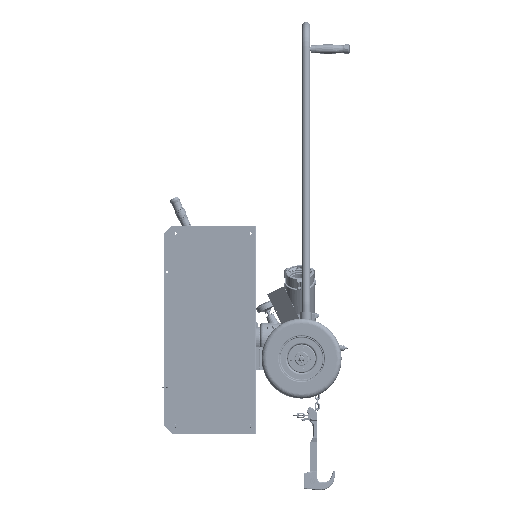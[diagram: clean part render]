
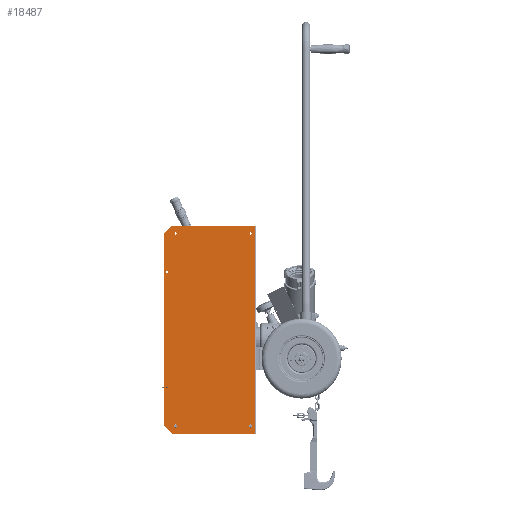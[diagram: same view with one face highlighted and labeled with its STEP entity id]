
A CAD part, left-side view. The second image highlights one B-rep face of the part: STEP entity #18487.
In plain terms, the highlighted planar face has unit normal (-1, 0, 0).
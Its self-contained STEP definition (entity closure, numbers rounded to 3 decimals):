
#17765=DIRECTION('',(0.,1.,0.));
#17766=VECTOR('',#17765,10.775);
#17767=CARTESIAN_POINT('',(-21.,6.663,17.25));
#17768=LINE('',#17767,#17766);
#17769=CARTESIAN_POINT('',(-21.,16.938,-8.75));
#17770=DIRECTION('',(-1.,0.,0.));
#17771=DIRECTION('',(0.,0.,1.));
#17772=AXIS2_PLACEMENT_3D('',#17769,#17770,#17771);
#17774=CARTESIAN_POINT('',(-21.,16.938,-8.75));
#17775=DIRECTION('',(-1.,0.,0.));
#17776=DIRECTION('',(0.,0.,-1.));
#17777=AXIS2_PLACEMENT_3D('',#17774,#17775,#17776);
#17779=CARTESIAN_POINT('',(-21.,18.063,-3.75));
#17780=DIRECTION('',(-1.,0.,0.));
#17781=DIRECTION('',(0.,0.,1.));
#17782=AXIS2_PLACEMENT_3D('',#17779,#17780,#17781);
#17784=CARTESIAN_POINT('',(-21.,18.063,-3.75));
#17785=DIRECTION('',(-1.,0.,0.));
#17786=DIRECTION('',(0.,0.,-1.));
#17787=AXIS2_PLACEMENT_3D('',#17784,#17785,#17786);
#17789=CARTESIAN_POINT('',(-21.,7.188,-8.75));
#17790=DIRECTION('',(-1.,0.,0.));
#17791=DIRECTION('',(0.,0.,1.));
#17792=AXIS2_PLACEMENT_3D('',#17789,#17790,#17791);
#17794=CARTESIAN_POINT('',(-21.,7.188,-8.75));
#17795=DIRECTION('',(-1.,0.,0.));
#17796=DIRECTION('',(0.,0.,-1.));
#17797=AXIS2_PLACEMENT_3D('',#17794,#17795,#17796);
#17799=CARTESIAN_POINT('',(-21.,16.938,16.25));
#17800=DIRECTION('',(-1.,0.,0.));
#17801=DIRECTION('',(0.,0.,1.));
#17802=AXIS2_PLACEMENT_3D('',#17799,#17800,#17801);
#17804=CARTESIAN_POINT('',(-21.,16.938,16.25));
#17805=DIRECTION('',(-1.,0.,0.));
#17806=DIRECTION('',(0.,0.,-1.));
#17807=AXIS2_PLACEMENT_3D('',#17804,#17805,#17806);
#17809=CARTESIAN_POINT('',(-21.,7.188,16.25));
#17810=DIRECTION('',(1.,0.,0.));
#17811=DIRECTION('',(0.,0.,-1.));
#17812=AXIS2_PLACEMENT_3D('',#17809,#17810,#17811);
#17814=CARTESIAN_POINT('',(-21.,7.188,16.25));
#17815=DIRECTION('',(1.,0.,0.));
#17816=DIRECTION('',(0.,0.,1.));
#17817=AXIS2_PLACEMENT_3D('',#17814,#17815,#17816);
#17819=CARTESIAN_POINT('',(-21.,18.063,11.25));
#17820=DIRECTION('',(-1.,0.,0.));
#17821=DIRECTION('',(0.,0.,1.));
#17822=AXIS2_PLACEMENT_3D('',#17819,#17820,#17821);
#17824=CARTESIAN_POINT('',(-21.,18.063,11.25));
#17825=DIRECTION('',(-1.,0.,0.));
#17826=DIRECTION('',(0.,0.,-1.));
#17827=AXIS2_PLACEMENT_3D('',#17824,#17825,#17826);
#17829=DIRECTION('',(0.,-0.707,-0.707));
#17830=VECTOR('',#17829,1.414);
#17831=CARTESIAN_POINT('',(-21.,18.438,-8.75));
#17832=LINE('',#17831,#17830);
#17833=DIRECTION('',(0.,0.707,-0.707));
#17834=VECTOR('',#17833,1.414);
#17835=CARTESIAN_POINT('',(-21.,17.438,17.25));
#17836=LINE('',#17835,#17834);
#17837=DIRECTION('',(0.,0.,-1.));
#17838=VECTOR('',#17837,27.);
#17839=CARTESIAN_POINT('',(-21.,6.663,17.25));
#17840=LINE('',#17839,#17838);
#17925=DIRECTION('',(0.,1.,0.));
#17926=VECTOR('',#17925,10.775);
#17927=CARTESIAN_POINT('',(-21.,6.663,-9.75));
#17928=LINE('',#17927,#17926);
#18215=DIRECTION('',(0.,0.,-1.));
#18216=VECTOR('',#18215,25.);
#18217=CARTESIAN_POINT('',(-21.,18.438,16.25));
#18218=LINE('',#18217,#18216);
#18220=CARTESIAN_POINT('',(-21.,6.663,17.25));
#18222=VERTEX_POINT('',#18220);
#18228=CARTESIAN_POINT('',(-21.,6.663,-9.75));
#18230=VERTEX_POINT('',#18228);
#18331=CARTESIAN_POINT('',(-21.,17.438,17.25));
#18333=VERTEX_POINT('',#18331);
#18335=CARTESIAN_POINT('',(-21.,17.438,-9.75));
#18337=VERTEX_POINT('',#18335);
#18339=CARTESIAN_POINT('',(-21.,16.938,-8.891));
#18340=CARTESIAN_POINT('',(-21.,16.938,-8.609));
#18341=VERTEX_POINT('',#18339);
#18342=VERTEX_POINT('',#18340);
#18343=CARTESIAN_POINT('',(-21.,18.063,-3.891));
#18344=CARTESIAN_POINT('',(-21.,18.063,-3.609));
#18345=VERTEX_POINT('',#18343);
#18346=VERTEX_POINT('',#18344);
#18347=CARTESIAN_POINT('',(-21.,7.188,-8.891));
#18348=CARTESIAN_POINT('',(-21.,7.188,-8.609));
#18349=VERTEX_POINT('',#18347);
#18350=VERTEX_POINT('',#18348);
#18351=CARTESIAN_POINT('',(-21.,16.938,16.109));
#18352=CARTESIAN_POINT('',(-21.,16.938,16.391));
#18353=VERTEX_POINT('',#18351);
#18354=VERTEX_POINT('',#18352);
#18355=CARTESIAN_POINT('',(-21.,7.188,16.109));
#18356=CARTESIAN_POINT('',(-21.,7.188,16.391));
#18357=VERTEX_POINT('',#18355);
#18358=VERTEX_POINT('',#18356);
#18359=CARTESIAN_POINT('',(-21.,18.063,11.109));
#18360=CARTESIAN_POINT('',(-21.,18.063,11.391));
#18361=VERTEX_POINT('',#18359);
#18362=VERTEX_POINT('',#18360);
#18363=CARTESIAN_POINT('',(-21.,18.438,-8.75));
#18364=VERTEX_POINT('',#18363);
#18365=CARTESIAN_POINT('',(-21.,18.438,16.25));
#18366=VERTEX_POINT('',#18365);
#18434=CARTESIAN_POINT('',(-21.,6.663,17.25));
#18435=DIRECTION('',(-1.,0.,0.));
#18436=DIRECTION('',(0.,1.,0.));
#18437=AXIS2_PLACEMENT_3D('',#18434,#18435,#18436);
#18438=PLANE('',#18437);
#18440=ORIENTED_EDGE('',*,*,#18439,.F.);
#18442=ORIENTED_EDGE('',*,*,#18441,.F.);
#18443=ORIENTED_EDGE('',*,*,#18424,.F.);
#18444=ORIENTED_EDGE('',*,*,#18414,.F.);
#18446=ORIENTED_EDGE('',*,*,#18445,.T.);
#18448=ORIENTED_EDGE('',*,*,#18447,.T.);
#18449=EDGE_LOOP('',(#18440,#18442,#18443,#18444,#18446,#18448));
#18450=FACE_OUTER_BOUND('',#18449,.F.);
#18452=ORIENTED_EDGE('',*,*,#18451,.T.);
#18454=ORIENTED_EDGE('',*,*,#18453,.T.);
#18455=EDGE_LOOP('',(#18452,#18454));
#18456=FACE_BOUND('',#18455,.F.);
#18458=ORIENTED_EDGE('',*,*,#18457,.T.);
#18460=ORIENTED_EDGE('',*,*,#18459,.T.);
#18461=EDGE_LOOP('',(#18458,#18460));
#18462=FACE_BOUND('',#18461,.F.);
#18464=ORIENTED_EDGE('',*,*,#18463,.T.);
#18466=ORIENTED_EDGE('',*,*,#18465,.T.);
#18467=EDGE_LOOP('',(#18464,#18466));
#18468=FACE_BOUND('',#18467,.F.);
#18470=ORIENTED_EDGE('',*,*,#18469,.F.);
#18472=ORIENTED_EDGE('',*,*,#18471,.F.);
#18473=EDGE_LOOP('',(#18470,#18472));
#18474=FACE_BOUND('',#18473,.F.);
#18476=ORIENTED_EDGE('',*,*,#18475,.T.);
#18478=ORIENTED_EDGE('',*,*,#18477,.T.);
#18479=EDGE_LOOP('',(#18476,#18478));
#18480=FACE_BOUND('',#18479,.F.);
#18482=ORIENTED_EDGE('',*,*,#18481,.T.);
#18484=ORIENTED_EDGE('',*,*,#18483,.T.);
#18485=EDGE_LOOP('',(#18482,#18484));
#18486=FACE_BOUND('',#18485,.F.);
#17773=CIRCLE('',#17772,0.141);
#17778=CIRCLE('',#17777,0.141);
#17783=CIRCLE('',#17782,0.141);
#17788=CIRCLE('',#17787,0.141);
#17793=CIRCLE('',#17792,0.141);
#17798=CIRCLE('',#17797,0.141);
#17803=CIRCLE('',#17802,0.141);
#17808=CIRCLE('',#17807,0.141);
#17813=CIRCLE('',#17812,0.141);
#17818=CIRCLE('',#17817,0.141);
#17823=CIRCLE('',#17822,0.141);
#17828=CIRCLE('',#17827,0.141);
#18414=EDGE_CURVE('',#18222,#18333,#17768,.T.);
#18424=EDGE_CURVE('',#18333,#18366,#17836,.T.);
#18439=EDGE_CURVE('',#18364,#18337,#17832,.T.);
#18441=EDGE_CURVE('',#18366,#18364,#18218,.T.);
#18445=EDGE_CURVE('',#18222,#18230,#17840,.T.);
#18447=EDGE_CURVE('',#18230,#18337,#17928,.T.);
#18451=EDGE_CURVE('',#18346,#18345,#17783,.T.);
#18453=EDGE_CURVE('',#18345,#18346,#17788,.T.);
#18457=EDGE_CURVE('',#18350,#18349,#17793,.T.);
#18459=EDGE_CURVE('',#18349,#18350,#17798,.T.);
#18463=EDGE_CURVE('',#18354,#18353,#17803,.T.);
#18465=EDGE_CURVE('',#18353,#18354,#17808,.T.);
#18469=EDGE_CURVE('',#18357,#18358,#17813,.T.);
#18471=EDGE_CURVE('',#18358,#18357,#17818,.T.);
#18475=EDGE_CURVE('',#18362,#18361,#17823,.T.);
#18477=EDGE_CURVE('',#18361,#18362,#17828,.T.);
#18481=EDGE_CURVE('',#18342,#18341,#17773,.T.);
#18483=EDGE_CURVE('',#18341,#18342,#17778,.T.);
#18487=ADVANCED_FACE('',(#18450,#18456,#18462,#18468,#18474,#18480,#18486),
#18438,.T.);
